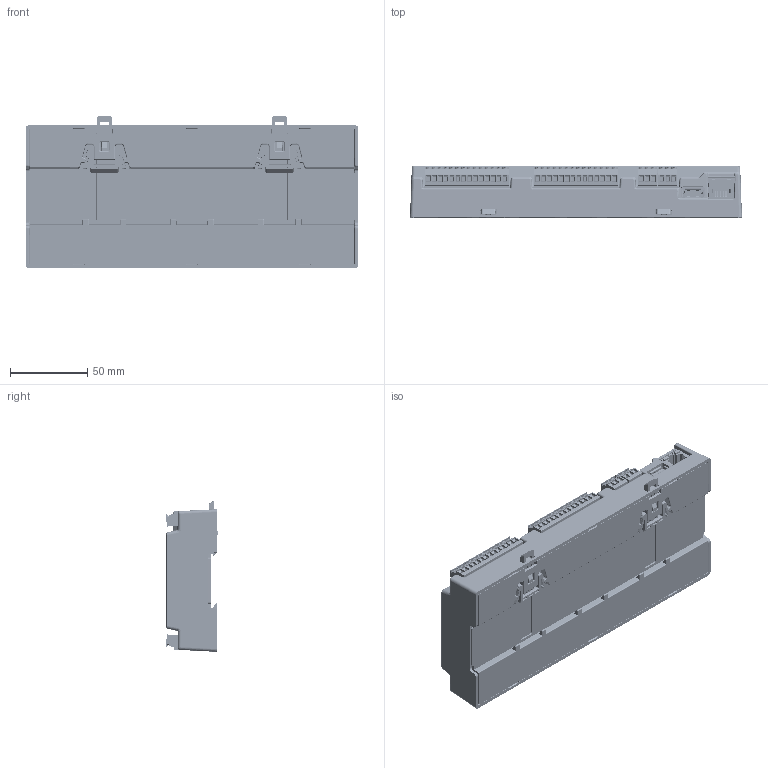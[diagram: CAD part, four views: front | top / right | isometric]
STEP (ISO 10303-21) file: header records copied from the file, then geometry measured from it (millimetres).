
FILE_DESCRIPTION (( 'STEP AP214' ), '1' );
FILE_NAME ('XP3XX_20230502.STEP', '2023-05-05T16:35:08', ( '' ), ( '' ), 'SwSTEP 2.0', 'SolidWorks 2021', '' );
FILE_SCHEMA (( 'AUTOMOTIVE_DESIGN' ));
Length unit declared in the file: millimetre
Products named in the file (25): Cópia de Cópia de CF201400678^66.017.100-6_NL717; Cópia de Cópia de CF301400678^66.017.100-6_NL717; Cópia de 00.301.784-1^Cópia de Cópia de CF301400678_66.017.100-6_NL717; Cópia de 00.303.118-6^Cópia de Cópia de CM101400678_66.017.100-6_NL717; Cópia de 00.303.118-6^Cópia de Cópia de CM701400678_66.017.100-6_NL717; Cópia de 00.303.116-0^Cópia de Cópia de CM201400678_66.017.100-6_NL717; Cópia de Cópia de CM601400678^66.017.100-6_NL717; Cópia de Cópia de CM201400678^66.017.100-6_NL717; Case_bottom; Cópia de Cópia de CM101400678^66.017.100-6_NL717; Cópia de 00.303.118-6^Cópia de Cópia de CM401400678_66.017.100-6_NL717; 00.303.119-4; XP3XX_20230502; Case_top; Cópia de 00.303.118-6^Cópia de Cópia de CM601400678_66.017.100-6_NL717; 00.303.117-8; Cópia de Cópia de CM401400678^66.017.100-6_NL717; Cópia de Cópia de CM301400678^66.017.100-6_NL717; Overlay; Cópia de 00.303.118-6^Cópia de Cópia de CM501400678_66.017.100-6_NL717; Cópia de Cópia de CM501400678^66.017.100-6_NL717; Cópia de Cópia de CM701400678^66.017.100-6_NL717; Cópia de 00.303.116-0^Cópia de Cópia de CM301400678_66.017.100-6_NL717; 01.100.289-0(ALT-2); Cópia de 00.301.952-6^Cópia de Cópia de CF201400678_66.017.100-6_NL717
Assembly tree (30 placements, depth 3):
  XP3XX_20230502
    Cópia de Cópia de CM101400678^66.017.100-6_NL717
      Cópia de 00.303.118-6^Cópia de Cópia de CM101400678_66.017.100-6_NL717
    Cópia de Cópia de CM701400678^66.017.100-6_NL717
      Cópia de 00.303.118-6^Cópia de Cópia de CM701400678_66.017.100-6_NL717
    Cópia de Cópia de CM601400678^66.017.100-6_NL717
      Cópia de 00.303.118-6^Cópia de Cópia de CM601400678_66.017.100-6_NL717
    Cópia de Cópia de CM401400678^66.017.100-6_NL717
      Cópia de 00.303.118-6^Cópia de Cópia de CM401400678_66.017.100-6_NL717
    Cópia de Cópia de CM501400678^66.017.100-6_NL717
      Cópia de 00.303.118-6^Cópia de Cópia de CM501400678_66.017.100-6_NL717
    Cópia de Cópia de CM301400678^66.017.100-6_NL717
      Cópia de 00.303.116-0^Cópia de Cópia de CM301400678_66.017.100-6_NL717
    Cópia de Cópia de CM201400678^66.017.100-6_NL717
      Cópia de 00.303.116-0^Cópia de Cópia de CM201400678_66.017.100-6_NL717
    Cópia de Cópia de CF201400678^66.017.100-6_NL717
      Cópia de 00.301.952-6^Cópia de Cópia de CF201400678_66.017.100-6_NL717
    Cópia de Cópia de CF301400678^66.017.100-6_NL717
      Cópia de 00.301.784-1^Cópia de Cópia de CF301400678_66.017.100-6_NL717
    01.100.289-0(ALT-2)  x2
    00.303.119-4  x5
    00.303.117-8  x2
    Overlay
    Case_top
    Case_bottom
Bounding box: 214.9 x 33.2 x 98.33 mm (x, y, z)
Volume: 555073.4 mm3; surface area: 186972.3 mm2
Topology: 21 solids, 39 shells, 14131 faces, 37861 edges, 24852 vertices
Faces by surface type: plane 7866, bspline 3202, cylinder 2483, cone 568, sphere 12
Entity records: 416465 total; most frequent: CARTESIAN_POINT 122355, ORIENTED_EDGE 53184, DIRECTION 33431, EDGE_CURVE 26592, VERTEX_POINT 17486, LINE 15331, VECTOR 15331, EDGE_LOOP 10682
